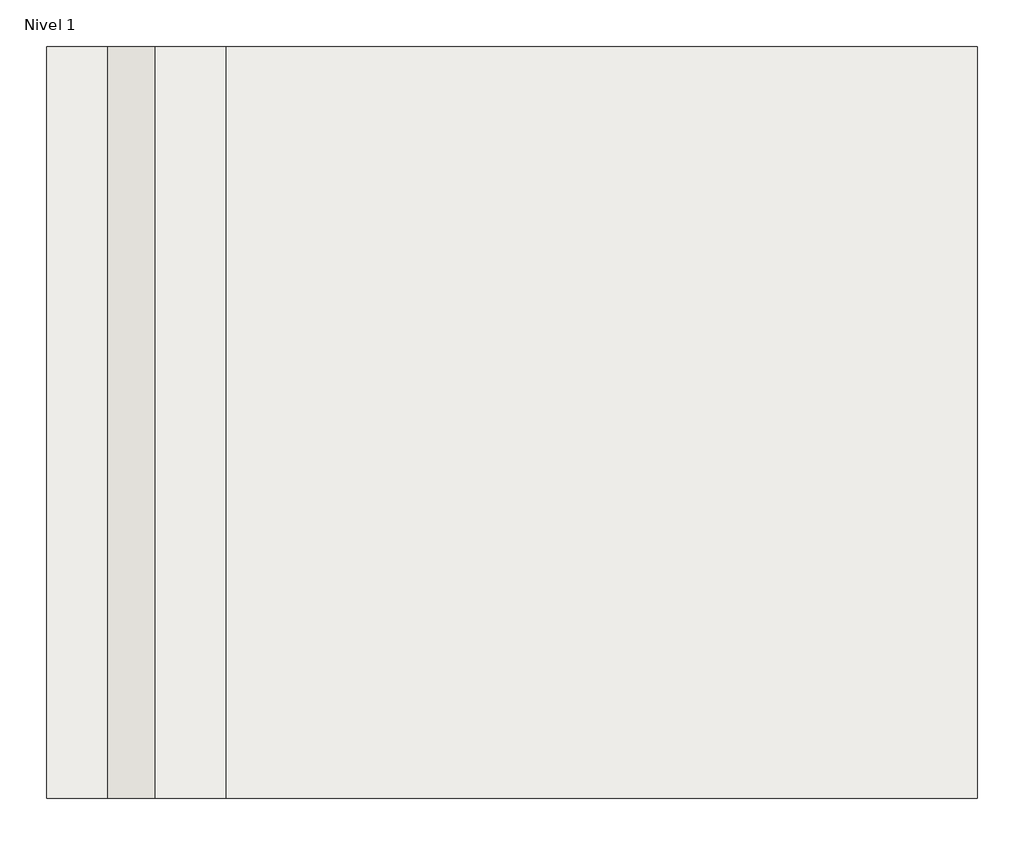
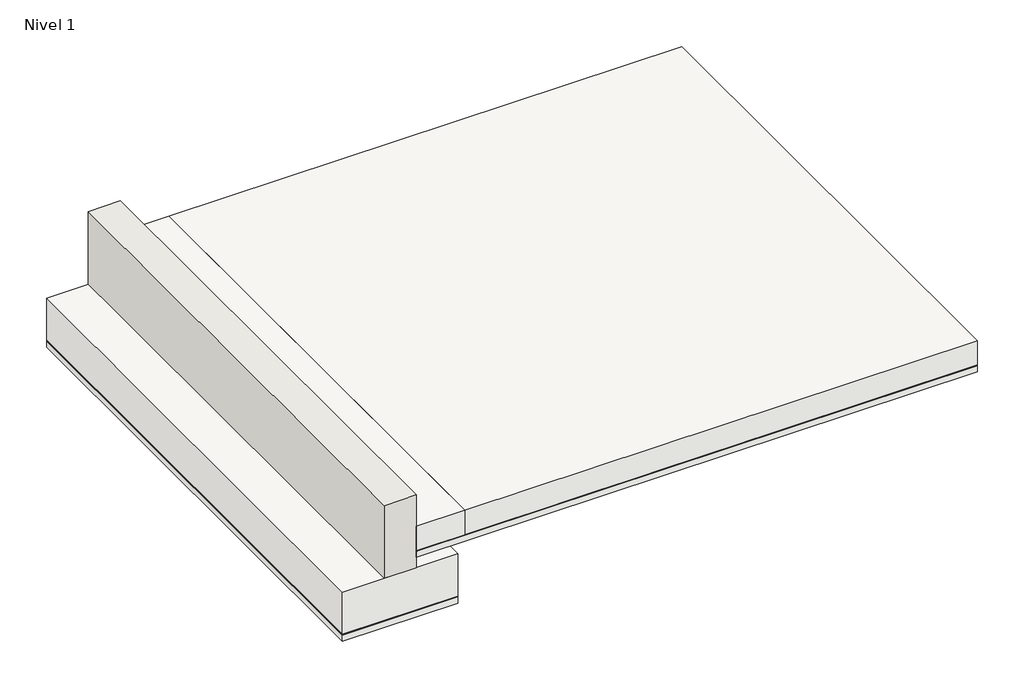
# One storey: 4 slabs, 1 footing, 1 wall.
"""IFC4 building model written with IfcOpenShell, lengths in millimetres."""

from ifc_helpers import new_model, si_unit, frame, origin, origin_with_axes, place, context, project, spatial, polyline, outline, extrude, element, save

model = new_model("IFC4")

# Units and contexts
model_context = context("Model", 3, world=origin())
ifc_project = project(units=[si_unit("LENGTHUNIT", "METRE", prefix="MILLI")], contexts=[model_context])

# Site, building, storey
site = spatial("IfcSite", under=ifc_project)
building = spatial("IfcBuilding", under=site)
storey = spatial("IfcBuildingStorey", under=building, Name="Nivel 1", Elevation=0.0)

# Footing
placement = place(None, origin())
element("IfcFooting", 1, ObjectType="ZapataCorrida", at=placement, inside=storey, context=model_context, shape_type="SweptSolid", body=[
    extrude(outline(polyline([(-7054.9527165, 913.1571083), (-6154.9527165, 913.1571083), (-6154.9527165, -3086.8428917), (-7054.9527165, -3086.8428917), (-7054.9527165, 913.1571083)])), frame((0.0, 0.0, -350.0), z_axis=(0.0, 0.0, 1.0), x_axis=(1.0, 0.0, 0.0)), (0.0, 0.0, 1.0), 350.0),
])

# Slabs
element("IfcSlab", 2, ObjectType="ProteccionContraRadon-Radon_Solera_S-RAD-4F", at=placement, inside=storey, context=model_context, shape_type="SweptSolid", body=[
    extrude(outline(polyline([(-6154.9527165, 913.1571083), (-6154.9527165, -3086.8428917), (-7054.9527165, -3086.8428917), (-7054.9527165, 913.1571083), (-6154.9527165, 913.1571083)])), frame((0.0, 0.0, -352.0), z_axis=(0.0, 0.0, 1.0), x_axis=(1.0, 0.0, 0.0)), (0.0, 0.0, 1.0), 2.0),
    extrude(outline(polyline([(-6154.9527165, 913.1571083), (-6154.9527165, -3086.8428917), (-7054.9527165, -3086.8428917), (-7054.9527165, 913.1571083), (-6154.9527165, 913.1571083)])), frame((0.0, 0.0, -354.0), z_axis=(0.0, 0.0, 1.0), x_axis=(1.0, 0.0, 0.0)), (0.0, 0.0, 1.0), 2.0),
    extrude(outline(polyline([(-6154.9527165, 913.1571083), (-6154.9527165, -3086.8428917), (-7054.9527165, -3086.8428917), (-7054.9527165, 913.1571083), (-6154.9527165, 913.1571083)])), frame((0.0, 0.0, -356.0), z_axis=(0.0, 0.0, 1.0), x_axis=(1.0, 0.0, 0.0)), (0.0, 0.0, 1.0), 2.0),
    extrude(outline(polyline([(-6154.9527165, 913.1571083), (-6154.9527165, -3086.8428917), (-7054.9527165, -3086.8428917), (-7054.9527165, 913.1571083), (-6154.9527165, 913.1571083)])), frame((0.0, 0.0, -406.0), z_axis=(0.0, 0.0, 1.0), x_axis=(1.0, 0.0, 0.0)), (0.0, 0.0, 1.0), 50.0),
])
element("IfcSlab", 3, ObjectType="ProteccionContraRadon-Radon_Solera_S-RAD-4F", at=placement, inside=storey, context=model_context, shape_type="SweptSolid", body=[
    extrude(outline(polyline([(-2099.9527165, 913.1571083), (-2099.9527165, -3086.8428917), (-6479.9527165, -3086.8428917), (-6479.9527165, 913.1571083), (-2099.9527165, 913.1571083)])), frame((0.0, 0.0, 138.0), z_axis=(0.0, 0.0, 1.0), x_axis=(1.0, 0.0, 0.0)), (0.0, 0.0, 1.0), 2.0),
    extrude(outline(polyline([(-2099.9527165, 913.1571083), (-2099.9527165, -3086.8428917), (-6479.9527165, -3086.8428917), (-6479.9527165, 913.1571083), (-2099.9527165, 913.1571083)])), frame((0.0, 0.0, 136.0), z_axis=(0.0, 0.0, 1.0), x_axis=(1.0, 0.0, 0.0)), (0.0, 0.0, 1.0), 2.0),
    extrude(outline(polyline([(-2099.9527165, 913.1571083), (-2099.9527165, -3086.8428917), (-6479.9527165, -3086.8428917), (-6479.9527165, 913.1571083), (-2099.9527165, 913.1571083)])), frame((0.0, 0.0, 134.0), z_axis=(0.0, 0.0, 1.0), x_axis=(1.0, 0.0, 0.0)), (0.0, 0.0, 1.0), 2.0),
    extrude(outline(polyline([(-2099.9527165, 913.1571083), (-2099.9527165, -3086.8428917), (-6479.9527165, -3086.8428917), (-6479.9527165, 913.1571083), (-2099.9527165, 913.1571083)])), frame((0.0, 0.0, 84.0), z_axis=(0.0, 0.0, 1.0), x_axis=(1.0, 0.0, 0.0)), (0.0, 0.0, 1.0), 50.0),
])
element("IfcSlab", 4, ObjectType="Placa", at=placement, inside=storey, context=model_context, shape_type="SweptSolid", body=[
    extrude(outline(polyline([(-6099.9527165, 913.1571083), (-6099.9527165, -3086.8428917), (-6479.9527165, -3086.8428917), (-6479.9527165, 913.1571083), (-6099.9527165, 913.1571083)])), frame((0.0, 0.0, 140.0), z_axis=(0.0, 0.0, 1.0), x_axis=(1.0, 0.0, 0.0)), (0.0, 0.0, 1.0), 200.0),
])
element("IfcSlab", 5, ObjectType="Placa", at=placement, inside=storey, context=model_context, shape_type="SweptSolid", body=[
    extrude(outline(polyline([(-2099.9527165, 913.1571083), (-2099.9527165, -3086.8428917), (-6099.9527165, -3086.8428917), (-6099.9527165, 913.1571083), (-2099.9527165, 913.1571083)])), frame((0.0, 0.0, 140.0), z_axis=(0.0, 0.0, 1.0), x_axis=(1.0, 0.0, 0.0)), (0.0, 0.0, 1.0), 200.0),
])

# Wall
element("IfcWall", 6, ObjectType="Muro", at=placement, inside=storey, context=model_context, shape_type="SweptSolid", body=[
    extrude(outline(polyline([(-6729.9527165, -3086.8428917), (-6729.9527165, 913.1571083), (-6479.9527165, 913.1571083), (-6479.9527165, -3086.8428917), (-6729.9527165, -3086.8428917)])), origin_with_axes(), (0.0, 0.0, 1.0), 600.0),
])

save(model, "model.ifc")
